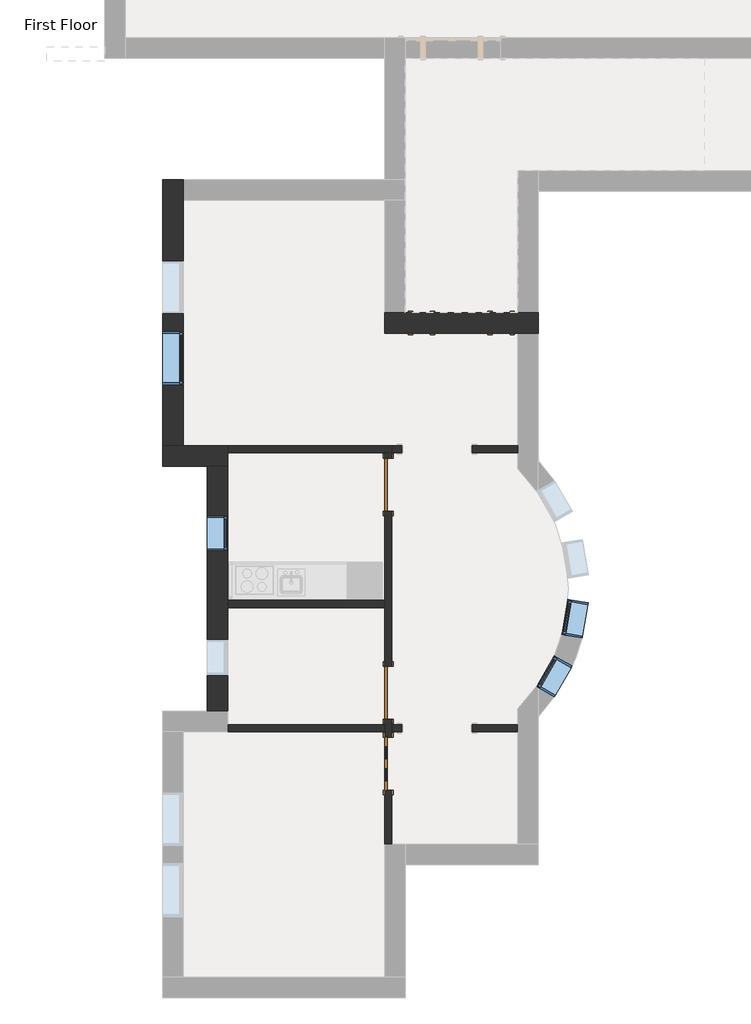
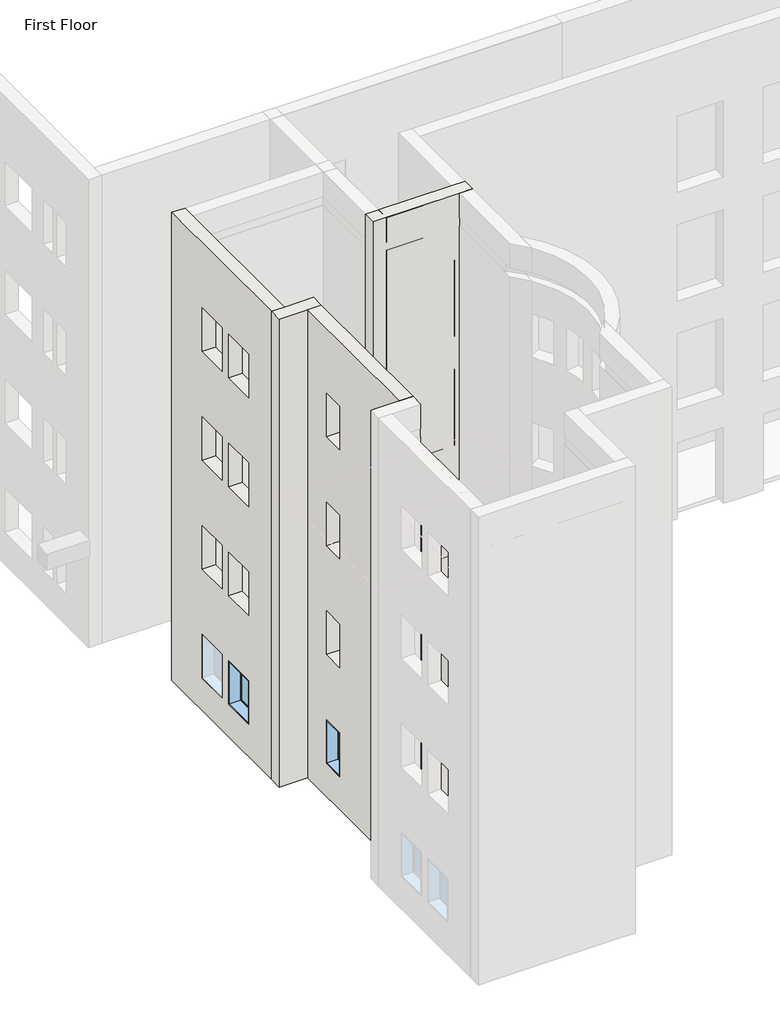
# One storey, part 9 of 23: 11 walls, 4 doors, 4 windows.
"""IFC4 building model written with IfcOpenShell, lengths in millimetres."""

import ifcopenshell
import ifcopenshell.guid

model = None  # the IFC model being written
_history = None  # IfcOwnerHistory: only IFC2X3 demands one
_inside = {}  # id of a spatial element -> (the spatial element, [elements in it])
_under = {}  # id of a project, library or spatial element -> (it, [spatial elements below it])
_declared = {}  # id of a project -> (the project, [libraries it declares])
_typed = {}  # id of a type object -> (the type object, [elements of that type])
_made_of = {}  # id of a material, layer set ... -> (it, [elements and type objects made of it])


def new_model(schema):
    """Start an empty IFC model of exactly this schema.

    Asked for "IFC4X3", IfcOpenShell would pick the latest addendum, in which some entities
    have other attributes; the version numbers below select the first issue.
    IFC2X3 requires an IfcOwnerHistory on every rooted entity: one is made here for all.
    """
    global model, _history
    if schema == "IFC4X3":
        model = ifcopenshell.file(schema_version=(4, 3, 0, 0))
    else:
        model = ifcopenshell.file(schema=schema)
    _inside.clear()
    _under.clear()
    _declared.clear()
    _typed.clear()
    _made_of.clear()
    _history = None
    if model.schema == "IFC2X3":
        org = make("IfcOrganization", Name="unknown")
        user = make(
            "IfcPersonAndOrganization",
            ThePerson=make("IfcPerson", FamilyName="unknown"),
            TheOrganization=org,
        )
        app = make(
            "IfcApplication",
            ApplicationDeveloper=org,
            Version="unknown",
            ApplicationFullName="unknown",
            ApplicationIdentifier="unknown",
        )
        _history = make(
            "IfcOwnerHistory",
            OwningUser=user,
            OwningApplication=app,
            ChangeAction="ADDED",
            CreationDate=0,
        )
    return model


def make(cls, **values):
    """One entity of the class cls with the attributes given. An attribute that is None is left unset."""
    return model.create_entity(
        cls, **{name: value for name, value in values.items() if value is not None}
    )


def rooted(cls, **values):
    """An entity with a GlobalId (a new one), such as an element, a storey or a relation."""
    return make(cls, GlobalId=ifcopenshell.guid.new(), OwnerHistory=_history, **values)


def si_unit(unit_type, name, prefix=None):
    """IfcSIUnit, for example si_unit("LENGTHUNIT", "METRE", prefix="MILLI")."""
    return make("IfcSIUnit", UnitType=unit_type, Prefix=prefix, Name=name)


def assignment(units):
    """IfcUnitAssignment: the units of a project."""
    return None if units is None else make("IfcUnitAssignment", Units=units)


def point(xyz):
    """IfcCartesianPoint."""
    return None if xyz is None else make("IfcCartesianPoint", Coordinates=xyz)


def direction(xyz):
    """IfcDirection."""
    return None if xyz is None else make("IfcDirection", DirectionRatios=xyz)


def frame(location, z_axis=None, x_axis=None):
    """IfcAxis2Placement3D, a coordinate frame: its origin and axes. An axis left out is left unset."""
    return make(
        "IfcAxis2Placement3D",
        Location=point(location),
        Axis=direction(z_axis),
        RefDirection=direction(x_axis),
    )


def frame_2d(location, x_axis=None):
    """IfcAxis2Placement2D, a coordinate frame in the plane: its origin and x axis."""
    return make(
        "IfcAxis2Placement2D", Location=point(location), RefDirection=direction(x_axis)
    )


def origin():
    """The frame at (0, 0, 0) with its axes left unset."""
    return frame((0.0, 0.0, 0.0))


def origin_with_axes():
    """The frame at (0, 0, 0) with the z axis (0, 0, 1) and the x axis (1, 0, 0) written out."""
    return frame((0.0, 0.0, 0.0), z_axis=(0.0, 0.0, 1.0), x_axis=(1.0, 0.0, 0.0))


def place(relative_to, where):
    """IfcLocalPlacement: puts the frame where relative to a parent placement (None: the world)."""
    return make(
        "IfcLocalPlacement", PlacementRelTo=relative_to, RelativePlacement=where
    )


def context(
    kind, dimensions, precision=None, world=None, true_north=None, identifier=None
):
    """IfcGeometricRepresentationContext, for example the 3D "Model" context."""
    return make(
        "IfcGeometricRepresentationContext",
        ContextIdentifier=identifier,
        ContextType=kind,
        CoordinateSpaceDimension=dimensions,
        Precision=precision,
        WorldCoordinateSystem=world,
        TrueNorth=true_north,
    )


def project(units=None, contexts=None):
    """IfcProject with its units and contexts."""
    return rooted(
        "IfcProject",
        Name="project",
        RepresentationContexts=contexts,
        UnitsInContext=assignment(units),
    )


def spatial(cls, under=None, at=None, **own):
    """A site, building, storey or space (cls), placed at a placement, below another one or the project."""
    s = rooted(cls, ObjectPlacement=at, **own)
    if under is not None:
        _under.setdefault(under.id(), (under, []))[1].append(s)
    return s


def polyline(points):
    """IfcPolyline through the points."""
    return make("IfcPolyline", Points=[point(p) for p in points])


def circle_curve(where, radius):
    """IfcCircle in the frame where."""
    return make("IfcCircle", Position=where, Radius=radius)


def trimmed(basis, trim1, trim2, sense, master):
    """IfcTrimmedCurve: the piece of a basis curve between two trims."""
    return make(
        "IfcTrimmedCurve",
        BasisCurve=basis,
        Trim1=trim1,
        Trim2=trim2,
        SenseAgreement=sense,
        MasterRepresentation=master,
    )


def segment(curve, same_sense, transition):
    """IfcCompositeCurveSegment."""
    return make(
        "IfcCompositeCurveSegment",
        Transition=transition,
        SameSense=same_sense,
        ParentCurve=curve,
    )


def composite_curve(segments, self_intersect=None):
    """IfcCompositeCurve: segments joined end to end."""
    return make("IfcCompositeCurve", Segments=segments, SelfIntersect=self_intersect)


def outline(outer, holes=None, kind="AREA"):
    """IfcArbitraryClosedProfileDef: a profile drawn as a closed curve; with holes, ...WithVoids."""
    if holes is None:
        return make("IfcArbitraryClosedProfileDef", ProfileType=kind, OuterCurve=outer)
    return make(
        "IfcArbitraryProfileDefWithVoids",
        ProfileType=kind,
        OuterCurve=outer,
        InnerCurves=holes,
    )


def extrude(swept, where, along, depth):
    """IfcExtrudedAreaSolid: the profile swept, set in the frame where, extruded along a direction by depth."""
    return make(
        "IfcExtrudedAreaSolid",
        SweptArea=swept,
        Position=where,
        ExtrudedDirection=direction(along),
        Depth=depth,
    )


def faces_of(points, faces, orient=None, outer=None):
    """IfcFace entities. A face is a list of loops; a loop is a list of indices into points, from 0.

    orient and outer hold one flag for each loop. By default every Orientation is true, the
    first loop of a face is its IfcFaceOuterBound and the others are IfcFaceBound.
    """
    made = []
    for i, loops in enumerate(faces):
        bounds = []
        for j, loop in enumerate(loops):
            is_outer = j == 0 if outer is None else outer[i][j]
            bounds.append(
                make(
                    "IfcFaceOuterBound" if is_outer else "IfcFaceBound",
                    Bound=make("IfcPolyLoop", Polygon=[points[k] for k in loop]),
                    Orientation=True if orient is None else orient[i][j],
                )
            )
        made.append(make("IfcFace", Bounds=bounds))
    return made


def faceted_brep(points, faces, orient=None, outer=None, voids=None):
    """IfcFacetedBrep: a solid bounded by flat faces; with voids (closed shells), ...WithVoids."""
    shared = [point(p) for p in points]
    hull = make("IfcClosedShell", CfsFaces=faces_of(shared, faces, orient, outer))
    if voids is None:
        return make("IfcFacetedBrep", Outer=hull)
    return make(
        "IfcFacetedBrepWithVoids",
        Outer=hull,
        Voids=[
            make(cls, CfsFaces=faces_of(shared, fs, o, b)) for cls, fs, o, b in voids
        ],
    )


def shape(context_of_items, identifier, shape_type, items):
    """IfcShapeRepresentation: the items that make up one representation, for example the "Body"."""
    return make(
        "IfcShapeRepresentation",
        ContextOfItems=context_of_items,
        RepresentationIdentifier=identifier,
        RepresentationType=shape_type,
        Items=items,
    )


def source(mapping_origin, context_of_items, identifier, shape_type, items):
    """IfcRepresentationMap: a shape defined once, which mapped items show again and again."""
    return make(
        "IfcRepresentationMap",
        MappingOrigin=mapping_origin,
        MappedRepresentation=shape(context_of_items, identifier, shape_type, items),
    )


def transform(
    local_origin,
    x_axis=None,
    y_axis=None,
    z_axis=None,
    scale=None,
    scale2=None,
    scale3=None,
    uniform=True,
):
    """IfcCartesianTransformationOperator3D, or its non-uniform kind. x_axis, y_axis, z_axis: its Axis1, 2, 3."""
    if uniform:
        return make(
            "IfcCartesianTransformationOperator3D",
            Axis1=direction(x_axis),
            Axis2=direction(y_axis),
            LocalOrigin=point(local_origin),
            Scale=scale,
            Axis3=direction(z_axis),
        )
    return make(
        "IfcCartesianTransformationOperator3DnonUniform",
        Axis1=direction(x_axis),
        Axis2=direction(y_axis),
        LocalOrigin=point(local_origin),
        Scale=scale,
        Axis3=direction(z_axis),
        Scale2=scale2,
        Scale3=scale3,
    )


def mapped(mapping_source, mapping_target):
    """IfcMappedItem: shows the shape of a source again, moved by a transform."""
    return make(
        "IfcMappedItem", MappingSource=mapping_source, MappingTarget=mapping_target
    )


def made_of(thing, what):
    """Note that an element or type object is made of a material, layer set ...; save() writes the relation."""
    if what is not None:
        _made_of.setdefault(what.id(), (what, []))[1].append(thing)
    return thing


def element(
    cls,
    number,
    at=None,
    inside=None,
    cuts=None,
    type_object=None,
    material=None,
    context=None,
    identifier="Body",
    shape_type=None,
    held_by="IfcProductDefinitionShape",
    body=None,
    shapes=None,
    **own,
):
    """One element of the class cls, such as IfcWall. Its Tag is "e" and its number.

    at: its placement. inside: the storey or other place that contains it. cuts: it is an
    opening in that element (IfcRelVoidsElement). A single representation is given by context,
    identifier, shape_type and body (its items); several are given by shapes. held_by: the class
    of the entity that holds the representations. save() writes the other relations.
    """
    e = rooted(cls, Tag="e%d" % number, ObjectPlacement=at, **own)
    if body is not None:
        shapes = [shape(context, identifier, shape_type, body)]
    if shapes is not None:
        e.Representation = make(held_by, Representations=shapes)
    if inside is not None:
        _inside.setdefault(inside.id(), (inside, []))[1].append(e)
    if cuts is not None:
        rooted(
            "IfcRelVoidsElement", RelatingBuildingElement=cuts, RelatedOpeningElement=e
        )
    if type_object is not None:
        _typed.setdefault(type_object.id(), (type_object, []))[1].append(e)
    return made_of(e, material)


def aggregate(whole, parts):
    """IfcRelAggregates: a whole, such as a stair, and the parts it consists of."""
    return rooted("IfcRelAggregates", RelatingObject=whole, RelatedObjects=parts)


def save(model, path):
    """Write the relations noted so far, then the file.

    IfcRelAggregates (storeys below a building ...), IfcRelContainedInSpatialStructure (elements
    in a storey), IfcRelDefinesByType, IfcRelAssociatesMaterial and IfcRelDeclares: one each for
    every whole, place, type object, material and project.
    """
    for whole, parts in _under.values():
        aggregate(whole, parts)
    for where, things in _inside.values():
        rooted(
            "IfcRelContainedInSpatialStructure",
            RelatedElements=things,
            RelatingStructure=where,
        )
    for kind, things in _typed.values():
        rooted("IfcRelDefinesByType", RelatedObjects=things, RelatingType=kind)
    for what, things in _made_of.values():
        rooted("IfcRelAssociatesMaterial", RelatedObjects=things, RelatingMaterial=what)
    for by, libraries in _declared.values():
        rooted("IfcRelDeclares", RelatingContext=by, RelatedDefinitions=libraries)
    model.write(path)


def door_2e3b4da2(model_context):
    return source(origin(), model_context, "Body", "SweptSolid", [
        extrude(outline(polyline([(0.0, -457.2), (0.0, 457.2), (2133.6, 457.2), (2133.6, -457.2), (0.0, -457.2)]), holes=[polyline([(254.0, -76.2), (254.0, -304.8), (1219.2, -304.8), (1219.2, -76.2), (254.0, -76.2)]), polyline([(254.0, 304.8), (254.0, 76.2), (1219.2, 76.2), (1219.2, 304.8), (254.0, 304.8)]), polyline([(1371.6, 76.2), (1574.8, 76.2), (1574.8, 304.8), (1371.6, 304.8), (1371.6, 76.2)]), polyline([(1371.6, -304.8), (1574.8, -304.8), (1574.8, -76.2), (1371.6, -76.2), (1371.6, -304.8)]), composite_curve([segment(polyline([(1727.2, 304.8), (1727.2, -304.8)]), True, "CONTINUOUS"), segment(trimmed(circle_curve(frame_2d((1727.2, 0.0)), 304.8), [point((1727.2, -304.8))], [point((1727.2, 304.8))], True, "CARTESIAN"), True, "CONTINUOUS")], self_intersect=False)]), frame((0.0, 12.7, 0.0), z_axis=(0.0, 1.0, 0.0), x_axis=(0.0, 0.0, 1.0)), (0.0, 0.0, 1.0), 50.8),
        extrude(outline(polyline([(0.0, 457.2), (0.0, 533.4), (2209.8, 533.4), (2209.8, -533.4), (0.0, -533.4), (0.0, -457.2), (2133.6, -457.2), (2133.6, 457.2), (0.0, 457.2)])), frame((0.0, -88.9, 0.0), z_axis=(0.0, 1.0, 0.0), x_axis=(0.0, 0.0, 1.0)), (0.0, 0.0, 1.0), 25.4),
        extrude(outline(polyline([(2209.8, -533.4), (0.0, -533.4), (0.0, -457.2), (2133.6, -457.2), (2133.6, 457.2), (0.0, 457.2), (0.0, 533.4), (2209.8, 533.4), (2209.8, -533.4)])), frame((0.0, 63.5, 0.0), z_axis=(0.0, 1.0, 0.0), x_axis=(0.0, 0.0, 1.0)), (0.0, 0.0, 1.0), 25.4),
        extrude(outline(composite_curve([segment(polyline([(1727.2, -304.8), (1727.2, 304.8)]), True, "CONTINUOUS"), segment(trimmed(circle_curve(frame_2d((1727.2, 0.0)), 304.8), [point((1727.2, 304.8))], [point((1727.2, -304.8))], False, "CARTESIAN"), True, "CONTINUOUS")], self_intersect=False)), frame((0.0, 29.6333333, 0.0), z_axis=(0.0, 1.0, 0.0), x_axis=(0.0, 0.0, 1.0)), (0.0, 0.0, 1.0), 16.9333333),
        extrude(outline(polyline([(-304.8, 46.5666667), (-76.2, 46.5666667), (-76.2, 29.6333333), (-304.8, 29.6333333), (-304.8, 46.5666667)])), frame((0.0, 0.0, 254.0), z_axis=(0.0, 0.0, 1.0), x_axis=(1.0, 0.0, 0.0)), (0.0, 0.0, 1.0), 965.2),
        extrude(outline(polyline([(76.2, 46.5666667), (304.8, 46.5666667), (304.8, 29.6333333), (76.2, 29.6333333), (76.2, 46.5666667)])), frame((0.0, 0.0, 254.0), z_axis=(0.0, 0.0, 1.0), x_axis=(1.0, 0.0, 0.0)), (0.0, 0.0, 1.0), 965.2),
        extrude(outline(polyline([(76.2, 46.5666667), (304.8, 46.5666667), (304.8, 29.6333333), (76.2, 29.6333333), (76.2, 46.5666667)])), frame((0.0, 0.0, 1371.6), z_axis=(0.0, 0.0, 1.0), x_axis=(1.0, 0.0, 0.0)), (0.0, 0.0, 1.0), 203.2),
        extrude(outline(polyline([(-304.8, 46.5666667), (-76.2, 46.5666667), (-76.2, 29.6333333), (-304.8, 29.6333333), (-304.8, 46.5666667)])), frame((0.0, 0.0, 1371.6), z_axis=(0.0, 0.0, 1.0), x_axis=(1.0, 0.0, 0.0)), (0.0, 0.0, 1.0), 203.2),
    ])


def door_a1797ceb(model_context):
    return source(origin(), model_context, "Body", "SweptSolid", [
        extrude(outline(polyline([(2209.8, -533.4), (0.0, -533.4), (0.0, -457.2), (2133.6, -457.2), (2133.6, 457.2), (0.0, 457.2), (0.0, 533.4), (2209.8, 533.4), (2209.8, -533.4)])), frame((0.0, 63.5, 0.0), z_axis=(0.0, 1.0, 0.0), x_axis=(0.0, 0.0, 1.0)), (0.0, 0.0, 1.0), 25.4),
        extrude(outline(polyline([(2209.8, 533.4), (2209.8, -533.4), (0.0, -533.4), (0.0, -457.2), (2133.6, -457.2), (2133.6, 457.2), (0.0, 457.2), (0.0, 533.4), (2209.8, 533.4)])), frame((0.0, -88.9, 0.0), z_axis=(0.0, 1.0, 0.0), x_axis=(0.0, 0.0, 1.0)), (0.0, 0.0, 1.0), 25.4),
        extrude(outline(polyline([(457.2, 12.7), (-457.2, 12.7), (-457.2, 63.5), (457.2, 63.5), (457.2, 12.7)])), origin_with_axes(), (0.0, 0.0, 1.0), 2133.6),
    ])


def door_a3eb833a(model_context):
    return source(origin(), model_context, "Body", "SweptSolid", [
        extrude(outline(polyline([(2209.8, -533.4), (0.0, -533.4), (0.0, -457.2), (2133.6, -457.2), (2133.6, 457.2), (0.0, 457.2), (0.0, 533.4), (2209.8, 533.4), (2209.8, -533.4)])), frame((0.0, -88.9, 0.0), z_axis=(0.0, 1.0, 0.0), x_axis=(0.0, 0.0, 1.0)), (0.0, 0.0, 1.0), 25.4),
        extrude(outline(polyline([(2209.8, 533.4), (2209.8, -533.4), (0.0, -533.4), (0.0, -457.2), (2133.6, -457.2), (2133.6, 457.2), (0.0, 457.2), (0.0, 533.4), (2209.8, 533.4)])), frame((0.0, 63.5, 0.0), z_axis=(0.0, 1.0, 0.0), x_axis=(0.0, 0.0, 1.0)), (0.0, 0.0, 1.0), 25.4),
        extrude(outline(polyline([(457.2, -12.7), (457.2, -63.5), (-457.2, -63.5), (-457.2, -12.7), (457.2, -12.7)])), origin_with_axes(), (0.0, 0.0, 1.0), 2133.6),
    ])


def door_dba5aa2e(model_context):
    return source(origin(), model_context, "Body", "SweptSolid", [
        extrude(outline(polyline([(762.0, -134.9375), (762.0, -166.6875), (609.6, -166.6875), (609.6, -134.9375), (762.0, -134.9375)])), frame((0.0, 0.0, 600.075), z_axis=(0.0, 0.0, 1.0), x_axis=(1.0, 0.0, 0.0)), (0.0, 0.0, 1.0), 19.05),
        extrude(outline(polyline([(762.0, -134.9375), (762.0, -166.6875), (609.6, -166.6875), (609.6, -134.9375), (762.0, -134.9375)])), frame((0.0, 0.0, 955.675), z_axis=(0.0, 0.0, 1.0), x_axis=(1.0, 0.0, 0.0)), (0.0, 0.0, 1.0), 19.05),
        extrude(outline(polyline([(762.0, -134.9375), (762.0, -166.6875), (609.6, -166.6875), (609.6, -134.9375), (762.0, -134.9375)])), frame((0.0, 0.0, 1311.275), z_axis=(0.0, 0.0, 1.0), x_axis=(1.0, 0.0, 0.0)), (0.0, 0.0, 1.0), 19.05),
        extrude(outline(polyline([(762.0, -134.9375), (762.0, -166.6875), (609.6, -166.6875), (609.6, -134.9375), (762.0, -134.9375)])), frame((0.0, 0.0, 1666.875), z_axis=(0.0, 0.0, 1.0), x_axis=(1.0, 0.0, 0.0)), (0.0, 0.0, 1.0), 19.05),
        extrude(outline(polyline([(-609.6, -134.9375), (-609.6, -166.6875), (-762.0, -166.6875), (-762.0, -134.9375), (-609.6, -134.9375)])), frame((0.0, 0.0, 1666.875), z_axis=(0.0, 0.0, 1.0), x_axis=(1.0, 0.0, 0.0)), (0.0, 0.0, 1.0), 19.05),
        extrude(outline(polyline([(-609.6, -134.9375), (-609.6, -166.6875), (-762.0, -166.6875), (-762.0, -134.9375), (-609.6, -134.9375)])), frame((0.0, 0.0, 1311.275), z_axis=(0.0, 0.0, 1.0), x_axis=(1.0, 0.0, 0.0)), (0.0, 0.0, 1.0), 19.05),
        extrude(outline(polyline([(-609.6, -134.9375), (-609.6, -166.6875), (-762.0, -166.6875), (-762.0, -134.9375), (-609.6, -134.9375)])), frame((0.0, 0.0, 955.675), z_axis=(0.0, 0.0, 1.0), x_axis=(1.0, 0.0, 0.0)), (0.0, 0.0, 1.0), 19.05),
        extrude(outline(polyline([(-609.6, -134.9375), (-609.6, -166.6875), (-762.0, -166.6875), (-762.0, -134.9375), (-609.6, -134.9375)])), frame((0.0, 0.0, 600.075), z_axis=(0.0, 0.0, 1.0), x_axis=(1.0, 0.0, 0.0)), (0.0, 0.0, 1.0), 19.05),
        extrude(outline(polyline([(762.0, -141.2875), (762.0, -160.3375), (609.6, -160.3375), (609.6, -141.2875), (762.0, -141.2875)])), frame((0.0, 0.0, 254.0), z_axis=(0.0, 0.0, 1.0), x_axis=(1.0, 0.0, 0.0)), (0.0, 0.0, 1.0), 1778.0),
        extrude(outline(polyline([(-609.6, -141.2875), (-609.6, -160.3375), (-762.0, -160.3375), (-762.0, -141.2875), (-609.6, -141.2875)])), frame((0.0, 0.0, 254.0), z_axis=(0.0, 0.0, 1.0), x_axis=(1.0, 0.0, 0.0)), (0.0, 0.0, 1.0), 1778.0),
        extrude(outline(polyline([(-457.2, 176.2125), (-457.2, -176.2125), (-533.4, -176.2125), (-533.4, 176.2125), (-457.2, 176.2125)])), origin_with_axes(), (0.0, 0.0, 1.0), 2133.6),
        extrude(outline(polyline([(533.4, 176.2125), (533.4, -176.2125), (457.2, -176.2125), (457.2, 176.2125), (533.4, 176.2125)])), origin_with_axes(), (0.0, 0.0, 1.0), 2133.6),
        extrude(outline(polyline([(2133.6, -533.4), (2133.6, -838.2), (0.0, -838.2), (0.0, -533.4), (2133.6, -533.4)]), holes=[polyline([(2032.0, -609.6), (254.0, -609.6), (254.0, -762.0), (2032.0, -762.0), (2032.0, -609.6)])]), frame((0.0, -176.2125, 0.0), z_axis=(0.0, 1.0, 0.0), x_axis=(0.0, 0.0, 1.0)), (0.0, 0.0, 1.0), 50.8),
        extrude(outline(polyline([(0.0, 533.4), (0.0, 838.2), (2133.6, 838.2), (2133.6, 533.4), (0.0, 533.4)]), holes=[polyline([(2032.0, 762.0), (254.0, 762.0), (254.0, 609.6), (2032.0, 609.6), (2032.0, 762.0)])]), frame((0.0, -176.2125, 0.0), z_axis=(0.0, 1.0, 0.0), x_axis=(0.0, 0.0, 1.0)), (0.0, 0.0, 1.0), 50.8),
        extrude(outline(polyline([(0.0, -914.4), (0.0, -838.2), (2133.6, -838.2), (2133.6, -533.4), (0.0, -533.4), (0.0, -457.2), (2133.6, -457.2), (2133.6, 457.2), (0.0, 457.2), (0.0, 533.4), (2133.6, 533.4), (2133.6, 838.2), (0.0, 838.2), (0.0, 914.4), (2209.8, 914.4), (2209.8, -914.4), (0.0, -914.4)])), frame((0.0, 176.2125, 0.0), z_axis=(0.0, 1.0, 0.0), x_axis=(0.0, 0.0, 1.0)), (0.0, 0.0, 1.0), 25.4),
        extrude(outline(polyline([(0.0, 914.4), (2209.8, 914.4), (2209.8, -914.4), (0.0, -914.4), (0.0, -838.2), (2133.6, -838.2), (2133.6, -533.4), (0.0, -533.4), (0.0, -457.2), (2133.6, -457.2), (2133.6, 457.2), (0.0, 457.2), (0.0, 533.4), (2133.6, 533.4), (2133.6, 838.2), (0.0, 838.2), (0.0, 914.4)])), frame((0.0, -201.6125, 0.0), z_axis=(0.0, 1.0, 0.0), x_axis=(0.0, 0.0, 1.0)), (0.0, 0.0, 1.0), 25.4),
        extrude(outline(polyline([(-63.5, -138.1125), (-63.5, -163.5125), (-330.2, -163.5125), (-330.2, -138.1125), (-63.5, -138.1125)])), frame((0.0, 0.0, 1778.0), z_axis=(0.0, 0.0, 1.0), x_axis=(1.0, 0.0, 0.0)), (0.0, 0.0, 1.0), 254.0),
        extrude(outline(polyline([(330.2, -138.1125), (330.2, -163.5125), (63.5, -163.5125), (63.5, -138.1125), (330.2, -138.1125)])), frame((0.0, 0.0, 1778.0), z_axis=(0.0, 0.0, 1.0), x_axis=(1.0, 0.0, 0.0)), (0.0, 0.0, 1.0), 254.0),
        extrude(outline(polyline([(-63.5, -138.1125), (-63.5, -163.5125), (-330.2, -163.5125), (-330.2, -138.1125), (-63.5, -138.1125)])), frame((0.0, 0.0, 1041.4), z_axis=(0.0, 0.0, 1.0), x_axis=(1.0, 0.0, 0.0)), (0.0, 0.0, 1.0), 635.0),
        extrude(outline(polyline([(330.2, -138.1125), (330.2, -163.5125), (63.5, -163.5125), (63.5, -138.1125), (330.2, -138.1125)])), frame((0.0, 0.0, 1041.4), z_axis=(0.0, 0.0, 1.0), x_axis=(1.0, 0.0, 0.0)), (0.0, 0.0, 1.0), 635.0),
        extrude(outline(polyline([(-63.5, -138.1125), (-63.5, -163.5125), (-330.2, -163.5125), (-330.2, -138.1125), (-63.5, -138.1125)])), frame((0.0, 0.0, 254.0), z_axis=(0.0, 0.0, 1.0), x_axis=(1.0, 0.0, 0.0)), (0.0, 0.0, 1.0), 609.6),
        extrude(outline(polyline([(330.2, -138.1125), (330.2, -163.5125), (63.5, -163.5125), (63.5, -138.1125), (330.2, -138.1125)])), frame((0.0, 0.0, 254.0), z_axis=(0.0, 0.0, 1.0), x_axis=(1.0, 0.0, 0.0)), (0.0, 0.0, 1.0), 609.6),
        extrude(outline(polyline([(2133.6, 457.2), (2133.6, -457.2), (0.0, -457.2), (0.0, 457.2), (2133.6, 457.2)]), holes=[polyline([(2032.0, -63.5), (1778.0, -63.5), (1778.0, -330.2), (2032.0, -330.2), (2032.0, -63.5)]), polyline([(2032.0, 330.2), (1778.0, 330.2), (1778.0, 63.5), (2032.0, 63.5), (2032.0, 330.2)]), polyline([(1676.4, -63.5), (1041.4, -63.5), (1041.4, -330.2), (1676.4, -330.2), (1676.4, -63.5)]), polyline([(1676.4, 330.2), (1041.4, 330.2), (1041.4, 63.5), (1676.4, 63.5), (1676.4, 330.2)]), polyline([(863.6, -63.5), (254.0, -63.5), (254.0, -330.2), (863.6, -330.2), (863.6, -63.5)]), polyline([(863.6, 330.2), (254.0, 330.2), (254.0, 63.5), (863.6, 63.5), (863.6, 330.2)])]), frame((0.0, -176.2125, 0.0), z_axis=(0.0, 1.0, 0.0), x_axis=(0.0, 0.0, 1.0)), (0.0, 0.0, 1.0), 50.8),
    ])


def window_60baf983(model_context):
    return source(origin(), model_context, "Body", "SweptSolid", [
        extrude(outline(polyline([(203.2, 128.5875), (-279.4, 128.5875), (-279.4, 141.2875), (203.2, 141.2875), (203.2, 128.5875)])), frame((0.0, 0.0, 977.9), z_axis=(0.0, 0.0, 1.0), x_axis=(1.0, 0.0, 0.0)), (0.0, 0.0, 1.0), 1092.2),
        extrude(outline(polyline([(2114.55, -323.85), (933.45, -323.85), (933.45, 247.65), (2114.55, 247.65), (2114.55, -323.85)]), holes=[polyline([(2070.1, -279.4), (2070.1, 203.2), (977.9, 203.2), (977.9, -279.4), (2070.1, -279.4)])]), frame((0.0, 112.7125, 0.0), z_axis=(0.0, 1.0, 0.0), x_axis=(0.0, 0.0, 1.0)), (0.0, 0.0, 1.0), 44.45),
        extrude(outline(polyline([(2133.6, -342.9), (914.4, -342.9), (914.4, 266.7), (2133.6, 266.7), (2133.6, -342.9)]), holes=[polyline([(2101.85, -311.15), (2101.85, 234.95), (946.15, 234.95), (946.15, -311.15), (2101.85, -311.15)])]), frame((0.0, -176.2125, 0.0), z_axis=(0.0, 1.0, 0.0), x_axis=(0.0, 0.0, 1.0)), (0.0, 0.0, 1.0), 288.925),
        extrude(outline(polyline([(2133.6, 266.7), (2133.6, -342.9), (914.4, -342.9), (914.4, 266.7), (2133.6, 266.7)]), holes=[polyline([(2114.55, 247.65), (933.45, 247.65), (933.45, -323.85), (2114.55, -323.85), (2114.55, 247.65)])]), frame((0.0, 112.7125, 0.0), z_axis=(0.0, 1.0, 0.0), x_axis=(0.0, 0.0, 1.0)), (0.0, 0.0, 1.0), 63.5),
    ])


def window_15c49d37(model_context):
    return source(origin(), model_context, "Body", "SweptSolid", [
        extrude(outline(polyline([(355.6, 128.5875), (-431.8, 128.5875), (-431.8, 141.2875), (355.6, 141.2875), (355.6, 128.5875)])), frame((0.0, 0.0, 977.9), z_axis=(0.0, 0.0, 1.0), x_axis=(1.0, 0.0, 0.0)), (0.0, 0.0, 1.0), 1092.2),
        extrude(outline(polyline([(2114.55, -476.25), (933.45, -476.25), (933.45, 400.05), (2114.55, 400.05), (2114.55, -476.25)]), holes=[polyline([(2070.1, -431.8), (2070.1, 355.6), (977.9, 355.6), (977.9, -431.8), (2070.1, -431.8)])]), frame((0.0, 112.7125, 0.0), z_axis=(0.0, 1.0, 0.0), x_axis=(0.0, 0.0, 1.0)), (0.0, 0.0, 1.0), 44.45),
        extrude(outline(polyline([(2133.6, -495.3), (914.4, -495.3), (914.4, 419.1), (2133.6, 419.1), (2133.6, -495.3)]), holes=[polyline([(2101.85, -463.55), (2101.85, 387.35), (946.15, 387.35), (946.15, -463.55), (2101.85, -463.55)])]), frame((0.0, -176.2125, 0.0), z_axis=(0.0, 1.0, 0.0), x_axis=(0.0, 0.0, 1.0)), (0.0, 0.0, 1.0), 288.925),
        extrude(outline(polyline([(2133.6, 419.1), (2133.6, -495.3), (914.4, -495.3), (914.4, 419.1), (2133.6, 419.1)]), holes=[polyline([(2114.55, 400.05), (933.45, 400.05), (933.45, -476.25), (2114.55, -476.25), (2114.55, 400.05)])]), frame((0.0, 112.7125, 0.0), z_axis=(0.0, 1.0, 0.0), x_axis=(0.0, 0.0, 1.0)), (0.0, 0.0, 1.0), 63.5),
    ])


model = new_model("IFC4")

# Units and contexts
model_context = context("Model", 3, world=origin())
ifc_project = project(units=[si_unit("LENGTHUNIT", "METRE", prefix="MILLI")], contexts=[model_context])

# Site, building, storey
site = spatial("IfcSite", under=ifc_project)
building = spatial("IfcBuilding", under=site)
storey = spatial("IfcBuildingStorey", under=building, Name="First Floor", Elevation=0.0)

# Doors
placement = place(None, origin())
door_shape = door_2e3b4da2(model_context)
element("IfcDoor", 1, ObjectType="Single-Decorative 2 : 36\" x 84\"", at=placement, inside=storey, context=model_context, shape_type="MappedRepresentation", body=[
    mapped(door_shape, transform((-26223.8839563, -7954.4808133, 0.0), x_axis=(0.0, 1.0, 0.0), y_axis=(-1.0, 0.0, 0.0), z_axis=(0.0, 0.0, 1.0))),
])
door_2_shape = door_a1797ceb(model_context)
element("IfcDoor", 2, ObjectType="Single-Flush : 36\" x 84\"", at=placement, inside=storey, context=model_context, shape_type="MappedRepresentation", body=[
    mapped(door_2_shape, transform((-26223.8839563, -3157.0558133, 0.0), x_axis=(0.0, 1.0, 0.0), y_axis=(-1.0, 0.0, 0.0), z_axis=(0.0, 0.0, 1.0))),
])
door_3_shape = door_a3eb833a(model_context)
element("IfcDoor", 3, ObjectType="Single-Flush : 36\" x 84\"", at=placement, inside=storey, context=model_context, shape_type="MappedRepresentation", body=[
    mapped(door_3_shape, transform((-26223.8839563, -6735.2808133, 0.0), x_axis=(0.0, -1.0, 0.0), y_axis=(1.0, 0.0, 0.0), z_axis=(0.0, 0.0, 1.0))),
])
door_4_shape = door_dba5aa2e(model_context)
element("IfcDoor", 4, ObjectType="Single-Raised Panel with Sidelights : 36\" x 84\"", at=placement, inside=storey, context=model_context, shape_type="MappedRepresentation", body=[
    mapped(door_4_shape, transform((-24968.1714563, -374.1683133, 0.0), x_axis=(1.0, 0.0, 0.0), y_axis=(0.0, 1.0, 0.0), z_axis=(0.0, 0.0, 1.0))),
])

# Walls
element("IfcWall", 5, ObjectType="Exterior - Brick on Mtl. Stud", at=placement, inside=storey, context=model_context, shape_type="Brep", body=[
    faceted_brep([(-26287.3839563, -550.3808133, 0.0), (-24001.3839563, -550.3808133, 0.0), (-23648.9589563, -550.3808133, 0.0), (-23648.9589563, -550.3808133, 13106.4), (-24001.3839563, -550.3808133, 13106.4), (-26287.3839563, -550.3808133, 13106.4), (-26287.3839563, -197.9558133, 0.0), (-26287.3839563, -197.9558133, 12192.0), (-26287.3839563, -197.9558133, 12420.6), (-26287.3839563, -197.9558133, 13106.4), (-25934.9589563, -197.9558133, 13106.4), (-24001.3839563, -197.9558133, 13106.4), (-23648.9589563, -197.9558133, 13106.4), (-23648.9589563, -197.9558133, 0.0), (-24001.3839563, -197.9558133, 0.0), (-25934.9589563, -197.9558133, 0.0)], [[[0, 1, 2, 3, 4, 5]], [[6, 7, 8, 9, 10, 11, 12, 13, 14, 15]], [[2, 1, 0, 6, 15, 14, 13]], [[5, 4, 3, 12, 11, 10, 9]], [[3, 2, 13, 12]], [[0, 5, 9, 8, 7, 6]]]),
])
element("IfcWall", 6, ObjectType="Exterior - Brick on Mtl. Stud", at=placement, inside=storey, context=model_context, shape_type="Brep", body=[
    faceted_brep([(-24001.3839563, -550.3808133, 13106.4), (-25934.9589563, -550.3808133, 13106.4), (-25934.9589563, -550.3808133, 12420.6), (-24001.3839563, -550.3808133, 12420.6), (-24129.9714563, -550.3808133, 2133.6), (-24129.9714563, -550.3808133, 0.0), (-24001.3839563, -550.3808133, 0.0), (-24001.3839563, -550.3808133, 12192.0), (-25934.9589563, -550.3808133, 12192.0), (-25934.9589563, -550.3808133, 0.0), (-25806.3714563, -550.3808133, 0.0), (-25806.3714563, -550.3808133, 2133.6), (-24129.9714563, -550.3808133, 9144.0), (-25806.3714563, -550.3808133, 9144.0), (-25806.3714563, -550.3808133, 11277.6), (-24129.9714563, -550.3808133, 11277.6), (-24129.9714563, -550.3808133, 3048.0), (-25806.3714563, -550.3808133, 3048.0), (-25806.3714563, -550.3808133, 5181.6), (-24129.9714563, -550.3808133, 5181.6), (-24129.9714563, -550.3808133, 6096.0), (-25806.3714563, -550.3808133, 6096.0), (-25806.3714563, -550.3808133, 8229.6), (-24129.9714563, -550.3808133, 8229.6), (-25934.9589563, -197.9558133, 13106.4), (-24001.3839563, -197.9558133, 13106.4), (-24001.3839563, -197.9558133, 0.0), (-24129.9714563, -197.9558133, 0.0), (-24129.9714563, -197.9558133, 2133.6), (-25806.3714563, -197.9558133, 2133.6), (-25806.3714563, -197.9558133, 0.0), (-25934.9589563, -197.9558133, 0.0), (-25806.3714563, -197.9558133, 9144.0), (-24129.9714563, -197.9558133, 9144.0), (-24129.9714563, -197.9558133, 11277.6), (-25806.3714563, -197.9558133, 11277.6), (-25806.3714563, -197.9558133, 3048.0), (-24129.9714563, -197.9558133, 3048.0), (-24129.9714563, -197.9558133, 5181.6), (-25806.3714563, -197.9558133, 5181.6), (-25806.3714563, -197.9558133, 6096.0), (-24129.9714563, -197.9558133, 6096.0), (-24129.9714563, -197.9558133, 8229.6), (-25806.3714563, -197.9558133, 8229.6), (-24001.3839563, -537.6808133, 12420.6), (-24001.3839563, -537.6808133, 12192.0), (-25934.9589563, -537.6808133, 12192.0), (-25934.9589563, -537.6808133, 12420.6)], [[[0, 1, 2, 3]], [[4, 5, 6, 7, 8, 9, 10, 11], [12, 13, 14, 15], [16, 17, 18, 19], [20, 21, 22, 23]], [[24, 25, 26, 27, 28, 29, 30, 31], [32, 33, 34, 35], [36, 37, 38, 39], [40, 41, 42, 43]], [[26, 6, 5, 27]], [[9, 31, 30, 10]], [[1, 0, 25, 24]], [[6, 26, 25, 0, 3, 44, 45, 7]], [[1, 24, 31, 9, 8, 46, 47, 2]], [[28, 27, 5, 4]], [[29, 28, 4, 11]], [[30, 29, 11, 10]], [[33, 32, 13, 12]], [[34, 33, 12, 15]], [[35, 34, 15, 14]], [[32, 35, 14, 13]], [[37, 36, 17, 16]], [[38, 37, 16, 19]], [[39, 38, 19, 18]], [[36, 39, 18, 17]], [[41, 40, 21, 20]], [[42, 41, 20, 23]], [[43, 42, 23, 22]], [[40, 43, 22, 21]], [[45, 46, 8, 7]], [[47, 44, 3, 2]], [[46, 45, 44, 47]]]),
])
element("IfcWall", 7, ObjectType="Exterior - Brick on Mtl. Stud", at=placement, inside=storey, context=model_context, shape_type="Brep", body=[
    faceted_brep([(-28982.9589563, -7055.9558133, 0.0), (-28982.9589563, -5274.7808133, 0.0), (-28982.9589563, -5147.7808133, 0.0), (-28982.9589563, -2836.3808133, 0.0), (-28982.9589563, -2836.3808133, 12192.0), (-28982.9589563, -5147.7808133, 12192.0), (-28982.9589563, -5274.7808133, 12192.0), (-28982.9589563, -7055.9558133, 12192.0), (-28982.9589563, -6430.4808133, 7010.4), (-28982.9589563, -6430.4808133, 8229.6), (-28982.9589563, -5820.8808133, 8229.6), (-28982.9589563, -5820.8808133, 7010.4), (-28982.9589563, -4296.8808133, 7010.4), (-28982.9589563, -4296.8808133, 8229.6), (-28982.9589563, -3687.2808133, 8229.6), (-28982.9589563, -3687.2808133, 7010.4), (-28982.9589563, -6430.4808133, 3962.4), (-28982.9589563, -6430.4808133, 5181.6), (-28982.9589563, -5820.8808133, 5181.6), (-28982.9589563, -5820.8808133, 3962.4), (-28982.9589563, -4296.8808133, 3962.4), (-28982.9589563, -4296.8808133, 5181.6), (-28982.9589563, -3687.2808133, 5181.6), (-28982.9589563, -3687.2808133, 3962.4), (-28982.9589563, -6430.4808133, 10058.4), (-28982.9589563, -6430.4808133, 11277.6), (-28982.9589563, -5820.8808133, 11277.6), (-28982.9589563, -5820.8808133, 10058.4), (-28982.9589563, -4296.8808133, 10058.4), (-28982.9589563, -4296.8808133, 11277.6), (-28982.9589563, -3687.2808133, 11277.6), (-28982.9589563, -3687.2808133, 10058.4), (-28982.9589563, -6430.4808133, 914.4), (-28982.9589563, -6430.4808133, 2133.6), (-28982.9589563, -5820.8808133, 2133.6), (-28982.9589563, -5820.8808133, 914.4), (-28982.9589563, -4296.8808133, 914.4), (-28982.9589563, -4296.8808133, 2133.6), (-28982.9589563, -3687.2808133, 2133.6), (-28982.9589563, -3687.2808133, 914.4), (-28982.9589563, -2836.3808133, 13106.4), (-28982.9589563, -7055.9558133, 13106.4), (-28982.9589563, -7055.9558133, 12420.6), (-28982.9589563, -2836.3808133, 12420.6), (-29335.3839563, -2836.3808133, 0.0), (-29335.3839563, -7055.9558133, 0.0), (-29335.3839563, -7055.9558133, 13106.4), (-29335.3839563, -2836.3808133, 13106.4), (-29335.3839563, -6430.4808133, 8229.6), (-29335.3839563, -6430.4808133, 7010.4), (-29335.3839563, -5820.8808133, 7010.4), (-29335.3839563, -5820.8808133, 8229.6), (-29335.3839563, -4296.8808133, 8229.6), (-29335.3839563, -4296.8808133, 7010.4), (-29335.3839563, -3687.2808133, 7010.4), (-29335.3839563, -3687.2808133, 8229.6), (-29335.3839563, -6430.4808133, 5181.6), (-29335.3839563, -6430.4808133, 3962.4), (-29335.3839563, -5820.8808133, 3962.4), (-29335.3839563, -5820.8808133, 5181.6), (-29335.3839563, -4296.8808133, 5181.6), (-29335.3839563, -4296.8808133, 3962.4), (-29335.3839563, -3687.2808133, 3962.4), (-29335.3839563, -3687.2808133, 5181.6), (-29335.3839563, -6430.4808133, 11277.6), (-29335.3839563, -6430.4808133, 10058.4), (-29335.3839563, -5820.8808133, 10058.4), (-29335.3839563, -5820.8808133, 11277.6), (-29335.3839563, -4296.8808133, 11277.6), (-29335.3839563, -4296.8808133, 10058.4), (-29335.3839563, -3687.2808133, 10058.4), (-29335.3839563, -3687.2808133, 11277.6), (-29335.3839563, -6430.4808133, 2133.6), (-29335.3839563, -6430.4808133, 914.4), (-29335.3839563, -5820.8808133, 914.4), (-29335.3839563, -5820.8808133, 2133.6), (-29335.3839563, -4296.8808133, 2133.6), (-29335.3839563, -4296.8808133, 914.4), (-29335.3839563, -3687.2808133, 914.4), (-29335.3839563, -3687.2808133, 2133.6), (-28995.6589563, -7055.9558133, 12192.0), (-28995.6589563, -7055.9558133, 12420.6), (-28995.6589563, -2836.3808133, 12420.6), (-28995.6589563, -2836.3808133, 12192.0)], [[[0, 1, 2, 3, 4, 5, 6, 7], [8, 9, 10, 11], [12, 13, 14, 15], [16, 17, 18, 19], [20, 21, 22, 23], [24, 25, 26, 27], [28, 29, 30, 31], [32, 33, 34, 35], [36, 37, 38, 39]], [[40, 41, 42, 43]], [[44, 45, 46, 47], [48, 49, 50, 51], [52, 53, 54, 55], [56, 57, 58, 59], [60, 61, 62, 63], [64, 65, 66, 67], [68, 69, 70, 71], [72, 73, 74, 75], [76, 77, 78, 79]], [[3, 2, 1, 0, 45, 44]], [[41, 40, 47, 46]], [[41, 46, 45, 0, 7, 80, 81, 42]], [[3, 44, 47, 40, 43, 82, 83, 4]], [[49, 48, 9, 8]], [[50, 49, 8, 11]], [[51, 50, 11, 10]], [[48, 51, 10, 9]], [[53, 52, 13, 12]], [[54, 53, 12, 15]], [[55, 54, 15, 14]], [[52, 55, 14, 13]], [[57, 56, 17, 16]], [[58, 57, 16, 19]], [[59, 58, 19, 18]], [[56, 59, 18, 17]], [[61, 60, 21, 20]], [[62, 61, 20, 23]], [[63, 62, 23, 22]], [[60, 63, 22, 21]], [[65, 64, 25, 24]], [[66, 65, 24, 27]], [[67, 66, 27, 26]], [[64, 67, 26, 25]], [[69, 68, 29, 28]], [[70, 69, 28, 31]], [[71, 70, 31, 30]], [[68, 71, 30, 29]], [[73, 72, 33, 32]], [[74, 73, 32, 35]], [[75, 74, 35, 34]], [[72, 75, 34, 33]], [[77, 76, 37, 36]], [[78, 77, 36, 39]], [[79, 78, 39, 38]], [[76, 79, 38, 37]], [[83, 80, 7, 6, 5, 4]], [[81, 82, 43, 42]], [[80, 83, 82, 81]]]),
])
element("IfcWall", 8, ObjectType="Exterior - Brick on Mtl. Stud", at=placement, inside=storey, context=model_context, shape_type="Brep", body=[
    faceted_brep([(-28982.9589563, -2483.9558133, 0.0), (-29744.9589563, -2483.9558133, 0.0), (-30097.3839563, -2483.9558133, 0.0), (-30097.3839563, -2483.9558133, 13106.4), (-29744.9589563, -2483.9558133, 13106.4), (-28982.9589563, -2483.9558133, 13106.4), (-28982.9589563, -2483.9558133, 12420.6), (-29744.9589563, -2483.9558133, 12420.6), (-29757.6589563, -2483.9558133, 12420.6), (-29757.6589563, -2483.9558133, 12192.0), (-29744.9589563, -2483.9558133, 12192.0), (-28982.9589563, -2483.9558133, 12192.0), (-28982.9589563, -2483.9558133, 9144.0), (-28982.9589563, -2483.9558133, 6096.0), (-28982.9589563, -2483.9558133, 3048.0), (-30097.3839563, -2836.3808133, 0.0), (-29335.3839563, -2836.3808133, 0.0), (-28982.9589563, -2836.3808133, 0.0), (-28982.9589563, -2836.3808133, 12192.0), (-28995.6589563, -2836.3808133, 12192.0), (-28995.6589563, -2836.3808133, 12420.6), (-28982.9589563, -2836.3808133, 12420.6), (-28982.9589563, -2836.3808133, 13106.4), (-29335.3839563, -2836.3808133, 13106.4), (-30097.3839563, -2836.3808133, 13106.4), (-28982.9589563, -2610.9558133, 0.0), (-28982.9589563, -2610.9558133, 12192.0), (-29757.6589563, -2496.6558133, 12192.0), (-28995.6589563, -2496.6558133, 12192.0), (-28995.6589563, -2496.6558133, 12420.6), (-29757.6589563, -2496.6558133, 12420.6)], [[[0, 1, 2, 3, 4, 5, 6, 7, 8, 9, 10, 11, 12, 13, 14]], [[15, 16, 17, 18, 19, 20, 21, 22, 23, 24]], [[2, 1, 0, 25, 17, 16, 15]], [[5, 4, 3, 24, 23, 22]], [[17, 25, 0, 14, 13, 12, 11, 26, 18]], [[5, 22, 21, 6]], [[3, 2, 15, 24]], [[27, 28, 19, 18, 26, 11, 10, 9]], [[29, 30, 8, 7, 6, 21, 20]], [[28, 29, 20, 19]], [[28, 27, 30, 29]], [[30, 27, 9, 8]]]),
])
element("IfcWall", 9, ObjectType="Exterior - Brick on Mtl. Stud", at=placement, inside=storey, context=model_context, shape_type="Brep", body=[
    faceted_brep([(-29744.9589563, -2483.9558133, 0.0), (-29744.9589563, 1735.6191867, 0.0), (-29744.9589563, 2088.0441867, 0.0), (-29744.9589563, 2088.0441867, 13106.4), (-29744.9589563, 1735.6191867, 13106.4), (-29744.9589563, -2483.9558133, 13106.4), (-29744.9589563, -2483.9558133, 12420.6), (-29744.9589563, 1735.6191867, 12420.6), (-29744.9589563, 1748.3191867, 12420.6), (-29744.9589563, 1748.3191867, 12192.0), (-29744.9589563, 1735.6191867, 12192.0), (-29744.9589563, -2483.9558133, 12192.0), (-29744.9589563, -1440.9683133, 7010.4), (-29744.9589563, -1440.9683133, 8229.6), (-29744.9589563, -526.5683133, 8229.6), (-29744.9589563, -526.5683133, 7010.4), (-29744.9589563, -221.7683133, 7010.4), (-29744.9589563, -221.7683133, 8229.6), (-29744.9589563, 692.6316867, 8229.6), (-29744.9589563, 692.6316867, 7010.4), (-29744.9589563, -1440.9683133, 3962.4), (-29744.9589563, -1440.9683133, 5181.6), (-29744.9589563, -526.5683133, 5181.6), (-29744.9589563, -526.5683133, 3962.4), (-29744.9589563, -221.7683133, 3962.4), (-29744.9589563, -221.7683133, 5181.6), (-29744.9589563, 692.6316867, 5181.6), (-29744.9589563, 692.6316867, 3962.4), (-29744.9589563, -1440.9683133, 10058.4), (-29744.9589563, -1440.9683133, 11277.6), (-29744.9589563, -526.5683133, 11277.6), (-29744.9589563, -526.5683133, 10058.4), (-29744.9589563, -221.7683133, 10058.4), (-29744.9589563, -221.7683133, 11277.6), (-29744.9589563, 692.6316867, 11277.6), (-29744.9589563, 692.6316867, 10058.4), (-29744.9589563, -1440.9683133, 914.4), (-29744.9589563, -1440.9683133, 2133.6), (-29744.9589563, -526.5683133, 2133.6), (-29744.9589563, -526.5683133, 914.4), (-29744.9589563, -221.7683133, 914.4), (-29744.9589563, -221.7683133, 2133.6), (-29744.9589563, 692.6316867, 2133.6), (-29744.9589563, 692.6316867, 914.4), (-30097.3839563, 2088.0441867, 0.0), (-30097.3839563, -2483.9558133, 0.0), (-30097.3839563, -2483.9558133, 13106.4), (-30097.3839563, 2088.0441867, 13106.4), (-30097.3839563, -1440.9683133, 8229.6), (-30097.3839563, -1440.9683133, 7010.4), (-30097.3839563, -526.5683133, 7010.4), (-30097.3839563, -526.5683133, 8229.6), (-30097.3839563, -221.7683133, 8229.6), (-30097.3839563, -221.7683133, 7010.4), (-30097.3839563, 692.6316867, 7010.4), (-30097.3839563, 692.6316867, 8229.6), (-30097.3839563, -1440.9683133, 5181.6), (-30097.3839563, -1440.9683133, 3962.4), (-30097.3839563, -526.5683133, 3962.4), (-30097.3839563, -526.5683133, 5181.6), (-30097.3839563, -221.7683133, 5181.6), (-30097.3839563, -221.7683133, 3962.4), (-30097.3839563, 692.6316867, 3962.4), (-30097.3839563, 692.6316867, 5181.6), (-30097.3839563, -1440.9683133, 11277.6), (-30097.3839563, -1440.9683133, 10058.4), (-30097.3839563, -526.5683133, 10058.4), (-30097.3839563, -526.5683133, 11277.6), (-30097.3839563, -221.7683133, 11277.6), (-30097.3839563, -221.7683133, 10058.4), (-30097.3839563, 692.6316867, 10058.4), (-30097.3839563, 692.6316867, 11277.6), (-30097.3839563, -1440.9683133, 2133.6), (-30097.3839563, -1440.9683133, 914.4), (-30097.3839563, -526.5683133, 914.4), (-30097.3839563, -526.5683133, 2133.6), (-30097.3839563, -221.7683133, 2133.6), (-30097.3839563, -221.7683133, 914.4), (-30097.3839563, 692.6316867, 914.4), (-30097.3839563, 692.6316867, 2133.6), (-29757.6589563, -2483.9558133, 12192.0), (-29757.6589563, -2483.9558133, 12420.6), (-29757.6589563, 1748.3191867, 12192.0), (-29757.6589563, 1748.3191867, 12420.6)], [[[0, 1, 2, 3, 4, 5, 6, 7, 8, 9, 10, 11], [12, 13, 14, 15], [16, 17, 18, 19], [20, 21, 22, 23], [24, 25, 26, 27], [28, 29, 30, 31], [32, 33, 34, 35], [36, 37, 38, 39], [40, 41, 42, 43]], [[44, 45, 46, 47], [48, 49, 50, 51], [52, 53, 54, 55], [56, 57, 58, 59], [60, 61, 62, 63], [64, 65, 66, 67], [68, 69, 70, 71], [72, 73, 74, 75], [76, 77, 78, 79]], [[2, 1, 0, 45, 44]], [[5, 4, 3, 47, 46]], [[3, 2, 44, 47]], [[5, 46, 45, 0, 11, 80, 81, 6]], [[49, 48, 13, 12]], [[50, 49, 12, 15]], [[51, 50, 15, 14]], [[48, 51, 14, 13]], [[53, 52, 17, 16]], [[54, 53, 16, 19]], [[55, 54, 19, 18]], [[52, 55, 18, 17]], [[57, 56, 21, 20]], [[58, 57, 20, 23]], [[59, 58, 23, 22]], [[56, 59, 22, 21]], [[61, 60, 25, 24]], [[62, 61, 24, 27]], [[63, 62, 27, 26]], [[60, 63, 26, 25]], [[65, 64, 29, 28]], [[66, 65, 28, 31]], [[67, 66, 31, 30]], [[64, 67, 30, 29]], [[69, 68, 33, 32]], [[70, 69, 32, 35]], [[71, 70, 35, 34]], [[68, 71, 34, 33]], [[73, 72, 37, 36]], [[74, 73, 36, 39]], [[75, 74, 39, 38]], [[72, 75, 38, 37]], [[77, 76, 41, 40]], [[78, 77, 40, 43]], [[79, 78, 43, 42]], [[76, 79, 42, 41]], [[9, 82, 80, 11, 10]], [[81, 83, 8, 7, 6]], [[82, 83, 81, 80]], [[83, 82, 9, 8]]]),
])
element("IfcWall", 10, ObjectType="Interior - 5\" Partition (2-hr)", at=placement, inside=storey, context=model_context, shape_type="Brep", body=[
    faceted_brep([(-28982.9589563, -2610.9558133, 0.0), (-26287.3839563, -2610.9558133, 0.0), (-26160.3839563, -2610.9558133, 0.0), (-26160.3839563, -2610.9558133, 3048.0), (-26287.3839563, -2610.9558133, 3048.0), (-28982.9589563, -2610.9558133, 3048.0), (-28982.9589563, -2483.9558133, 0.0), (-28982.9589563, -2483.9558133, 3048.0), (-26160.3839563, -2483.9558133, 3048.0), (-26160.3839563, -2483.9558133, 0.0)], [[[0, 1, 2, 3, 4, 5]], [[6, 7, 8, 9]], [[2, 1, 0, 6, 9]], [[5, 4, 3, 8, 7]], [[3, 2, 9, 8]], [[0, 5, 7, 6]]]),
])
element("IfcWall", 11, ObjectType="Interior - 5\" Partition (2-hr)", at=placement, inside=storey, context=model_context, shape_type="Brep", body=[
    faceted_brep([(-26160.3839563, -7497.2808133, 2133.6), (-26160.3839563, -7497.2808133, 0.0), (-26160.3839563, -7408.3808133, 0.0), (-26160.3839563, -7281.3808133, 0.0), (-26160.3839563, -7192.4808133, 0.0), (-26160.3839563, -7192.4808133, 2133.6), (-26160.3839563, -6278.0808133, 2133.6), (-26160.3839563, -6278.0808133, 0.0), (-26160.3839563, -3614.2558133, 0.0), (-26160.3839563, -3614.2558133, 2133.6), (-26160.3839563, -2699.8558133, 2133.6), (-26160.3839563, -2699.8558133, 0.0), (-26160.3839563, -2610.9558133, 0.0), (-26160.3839563, -2610.9558133, 3048.0), (-26160.3839563, -7281.3808133, 3048.0), (-26160.3839563, -7408.3808133, 3048.0), (-26160.3839563, -9341.9558133, 3048.0), (-26160.3839563, -9341.9558133, 0.0), (-26160.3839563, -8411.6808133, 0.0), (-26160.3839563, -8411.6808133, 2133.6), (-26287.3839563, -7192.4808133, 0.0), (-26287.3839563, -7281.3808133, 0.0), (-26287.3839563, -7408.3808133, 0.0), (-26287.3839563, -7497.2808133, 0.0), (-26287.3839563, -7497.2808133, 2133.6), (-26287.3839563, -8411.6808133, 2133.6), (-26287.3839563, -8411.6808133, 0.0), (-26287.3839563, -9341.9558133, 0.0), (-26287.3839563, -9341.9558133, 3048.0), (-26287.3839563, -7408.3808133, 3048.0), (-26287.3839563, -7281.3808133, 3048.0), (-26287.3839563, -5274.7808133, 3048.0), (-26287.3839563, -5147.7808133, 3048.0), (-26287.3839563, -2610.9558133, 3048.0), (-26287.3839563, -2610.9558133, 0.0), (-26287.3839563, -2699.8558133, 0.0), (-26287.3839563, -2699.8558133, 2133.6), (-26287.3839563, -3614.2558133, 2133.6), (-26287.3839563, -3614.2558133, 0.0), (-26287.3839563, -5147.7808133, 0.0), (-26287.3839563, -5274.7808133, 0.0), (-26287.3839563, -6278.0808133, 0.0), (-26287.3839563, -6278.0808133, 2133.6), (-26287.3839563, -7192.4808133, 2133.6)], [[[0, 1, 2, 3, 4, 5, 6, 7, 8, 9, 10, 11, 12, 13, 14, 15, 16, 17, 18, 19]], [[20, 21, 22, 23, 24, 25, 26, 27, 28, 29, 30, 31, 32, 33, 34, 35, 36, 37, 38, 39, 40, 41, 42, 43]], [[12, 11, 35, 34]], [[4, 3, 2, 1, 23, 22, 21, 20]], [[41, 40, 39, 38, 8, 7]], [[18, 17, 27, 26]], [[16, 15, 14, 13, 33, 32, 31, 30, 29, 28]], [[17, 16, 28, 27]], [[13, 12, 34, 33]], [[36, 35, 11, 10]], [[37, 36, 10, 9]], [[38, 37, 9, 8]], [[5, 4, 20, 43]], [[6, 5, 43, 42]], [[7, 6, 42, 41]], [[24, 23, 1, 0]], [[25, 24, 0, 19]], [[26, 25, 19, 18]]]),
])
element("IfcWall", 12, ObjectType="Interior - 5\" Partition (2-hr)", at=placement, inside=storey, context=model_context, shape_type="SweptSolid", body=[
    extrude(outline(polyline([(-26287.3839563, -7408.3808133), (-28982.9589563, -7408.3808133), (-28982.9589563, -7281.3808133), (-26287.3839563, -7281.3808133), (-26287.3839563, -7408.3808133)])), origin_with_axes(), (0.0, 0.0, 1.0), 3048.0),
])
element("IfcWall", 13, ObjectType="Interior - 5\" Partition (2-hr)", at=placement, inside=storey, context=model_context, shape_type="SweptSolid", body=[
    extrude(outline(polyline([(-28982.9589563, -5147.7808133), (-26287.3839563, -5147.7808133), (-26287.3839563, -5274.7808133), (-28982.9589563, -5274.7808133), (-28982.9589563, -5147.7808133)])), origin_with_axes(), (0.0, 0.0, 1.0), 3048.0),
])
element("IfcWall", 14, ObjectType="Interior - 5\" Partition (2-hr)", at=placement, inside=storey, context=model_context, shape_type="SweptSolid", body=[
    extrude(outline(polyline([(2133.6, -24776.0839563), (0.0, -24776.0839563), (0.0, -24001.3839563), (3048.0, -24001.3839563), (3048.0, -26160.3839563), (0.0, -26160.3839563), (0.0, -25995.2839563), (2133.6, -25995.2839563), (2133.6, -24776.0839563)])), frame((0.0, -7408.3808133, 0.0), z_axis=(0.0, 1.0, 0.0), x_axis=(0.0, 0.0, 1.0)), (0.0, 0.0, 1.0), 127.0),
])
element("IfcWall", 15, ObjectType="Interior - 5\" Partition (2-hr)", at=placement, inside=storey, context=model_context, shape_type="SweptSolid", body=[
    extrude(outline(polyline([(0.0, -26160.3839563), (0.0, -25995.2839563), (2133.6, -25995.2839563), (2133.6, -24776.0839563), (0.0, -24776.0839563), (0.0, -24001.3839563), (3048.0, -24001.3839563), (3048.0, -26160.3839563), (0.0, -26160.3839563)])), frame((0.0, -2610.9558133, 0.0), z_axis=(0.0, 1.0, 0.0), x_axis=(0.0, 0.0, 1.0)), (0.0, 0.0, 1.0), 127.0),
])

# Windows
window_shape = window_60baf983(model_context)
element("IfcWindow", 16, ObjectType="Fixed : 24\" x 48\"", at=placement, inside=storey, context=model_context, shape_type="MappedRepresentation", body=[
    mapped(window_shape, transform((-29159.1714563, -4030.1808133, 0.0), x_axis=(0.0, -1.0, 0.0), y_axis=(1.0, 0.0, 0.0), z_axis=(0.0, 0.0, 1.0))),
])
element("IfcWindow", 17, ObjectType="Fixed : 24\" x 48\"", at=placement, inside=storey, context=model_context, shape_type="MappedRepresentation", body=[
    mapped(window_shape, transform((-23350.7429238, -6417.4311225, 0.0), x_axis=(0.49619108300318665, 0.8682133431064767, 0.0), y_axis=(-0.8682133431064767, 0.49619108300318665, 0.0), z_axis=(0.0, 0.0, 1.0))),
])
element("IfcWindow", 18, ObjectType="Fixed : 24\" x 48\"", at=placement, inside=storey, context=model_context, shape_type="MappedRepresentation", body=[
    mapped(window_shape, transform((-23007.6234621, -5423.2119495, 0.0), x_axis=(0.16973229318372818, 0.9854902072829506, 0.0), y_axis=(-0.9854902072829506, 0.16973229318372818, 0.0), z_axis=(0.0, 0.0, 1.0))),
])
window_2_shape = window_15c49d37(model_context)
element("IfcWindow", 19, ObjectType="Fixed : 36\" x 48\"", at=placement, inside=storey, context=model_context, shape_type="MappedRepresentation", body=[
    mapped(window_2_shape, transform((-29921.1714563, -1021.8683133, 0.0), x_axis=(0.0, -1.0, 0.0), y_axis=(1.0, 0.0, 0.0), z_axis=(0.0, 0.0, 1.0))),
])

save(model, "model.ifc")
